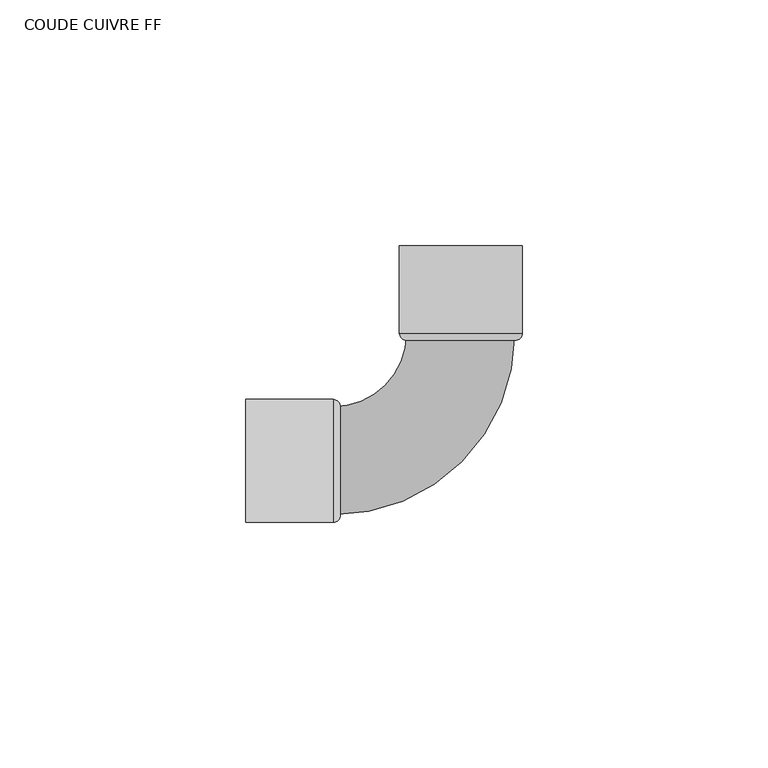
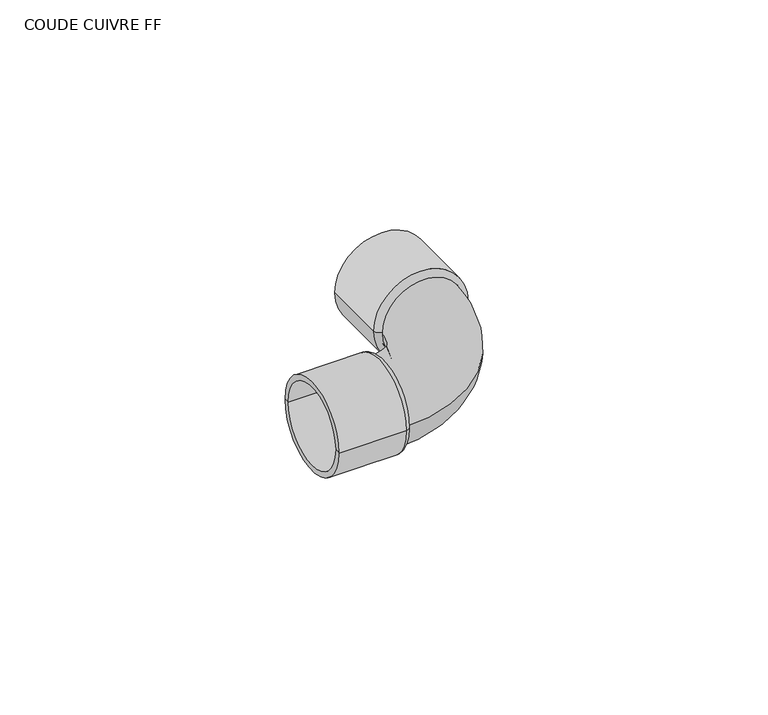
"""IFC4 building model written with IfcOpenShell, lengths in millimetres: pipe fitting geometry, COUDE CUIVRE FF : DIAMETRE EXTERNE."""

from ifc_helpers import new_model, si_unit, point, frame, origin, place, context, project, spatial, polyline, circle_curve, ellipse_curve, trimmed, source, transform, mapped, element, save
from ifc_brep_helpers import plane_surface, cylinder_surface, revolved_surface, advanced_brep


def coude_cuivre_ff_7fc61ebf(model_context):
    return source(origin(), model_context, "Body", "AdvancedBrep", [
        advanced_brep(
        [(12.5, 26.0, 0.0), (-12.5, 26.0, 0.0), (-12.5, 43.7928932, 0.0), (12.5, 43.7928932, 0.0), (11.0, 24.5, 0.0), (-11.0, 24.5, 0.0), (11.0, 43.7928932, 0.0), (-11.0, 43.7928932, 0.0)],
        [
            (0, 1, circle_curve(frame((0.0, 26.0, 0.0), z_axis=(0.0, 1.0, 0.0), x_axis=(-1.0000000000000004, 0.0, 0.0)), 12.5)),
            (1, 2),
            (2, 3, circle_curve(frame((0.0, 43.7928932, 0.0), z_axis=(0.0, -1.0, 0.0), x_axis=(-1.0000000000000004, 0.0, 0.0)), 12.5)),
            (3, 0),
            (1, 0, circle_curve(frame((0.0, 26.0, 0.0), z_axis=(0.0, 1.0, 0.0), x_axis=(-1.0000000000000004, 0.0, 0.0)), 12.5)),
            (3, 2, circle_curve(frame((0.0, 43.7928932, 0.0), z_axis=(0.0, -1.0, 0.0), x_axis=(-1.0000000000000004, 0.0, 0.0)), 12.5)),
            (4, 5, circle_curve(frame((0.0, 24.5, 0.0), z_axis=(0.0, 1.0, 0.0), x_axis=(-1.0000000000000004, 0.0, 0.0)), 11.0)),
            (5, 1, circle_curve(frame((-11.0, 26.0, 0.0), z_axis=(0.0, 0.0, -0.9999999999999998), x_axis=(0.0, 1.0000000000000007, 0.0)), 1.5)),
            (0, 4, circle_curve(frame((11.0, 26.0, 0.0), z_axis=(0.0, 0.0, -0.9999999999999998), x_axis=(0.0, 1.0000000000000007, 0.0)), 1.5)),
            (5, 4, circle_curve(frame((0.0, 24.5, 0.0), z_axis=(0.0, 1.0, 0.0), x_axis=(-1.0000000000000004, 0.0, 0.0)), 11.0)),
            (6, 7, circle_curve(frame((0.0, 43.7928932, 0.0), z_axis=(0.0, 1.0, 0.0), x_axis=(-1.0000000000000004, 0.0, 0.0)), 11.0)),
            (7, 5),
            (4, 6),
            (7, 6, circle_curve(frame((0.0, 43.7928932, 0.0), z_axis=(0.0, 1.0, 0.0), x_axis=(-1.0000000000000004, 0.0, 0.0)), 11.0)),
            (2, 7),
            (6, 3),
        ],
        [
            cylinder_surface(frame((0.0, 47.0, 0.0), z_axis=(0.0, -1.0000000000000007, 0.0), x_axis=(-1.0000000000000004, 0.0, 0.0)), 12.5),
            revolved_surface(trimmed(ellipse_curve(frame((-11.0, 26.0, 0.0), z_axis=(0.0, 0.0, 0.9999999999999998), x_axis=(0.0, 1.0000000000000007, 0.0)), 1.5, 1.5), [point((-12.5, 26.0, 0.0))], [point((-11.0, 24.5, 0.0))], True, "CARTESIAN"), (0.0, 47.0, 0.0), (0.0, -1.0000000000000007, 0.0)),
            revolved_surface(polyline([(-11.000000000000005, 24.49999999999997, 0.0), (-11.000000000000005, 43.792893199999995, 0.0)]), (0.0, 47.0, 0.0), (0.0, -1.0000000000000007, 0.0)),
            plane_surface(frame((0.0, 43.7928932, 0.0), z_axis=(0.0, 1.0, 0.0), x_axis=(-1.0, 0.0, 0.0))),
        ],
        [
            (0, [[1, 2, 3, 4]]),
            (0, [[5, -4, 6, -2]]),
            (1, [[7, 8, -1, 9]]),
            (1, [[10, -9, -5, -8]]),
            (2, [[11, 12, -7, 13]]),
            (2, [[14, -13, -10, -12]]),
            (3, [[-3, 15, -11, 16]]),
            (3, [[-6, -16, -14, -15]]),
        ],
    ),
        advanced_brep(
        [(-26.0, 12.5, 0.0), (-26.0, -12.5, 0.0), (-43.7928932, -12.5, 0.0), (-43.7928932, 12.5, 0.0), (-24.5, 11.0, 0.0), (-24.5, -11.0, 0.0), (-43.7928932, 11.0, 0.0), (-43.7928932, -11.0, 0.0)],
        [
            (0, 1, circle_curve(frame((-26.0, 0.0, 0.0), z_axis=(-1.0, 0.0, 0.0), x_axis=(0.0, -1.0000000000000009, 0.0)), 12.5)),
            (1, 2),
            (2, 3, circle_curve(frame((-43.7928932, 0.0, 0.0), z_axis=(1.0, 0.0, 0.0), x_axis=(0.0, -1.0000000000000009, 0.0)), 12.5)),
            (3, 0),
            (1, 0, circle_curve(frame((-26.0, 0.0, 0.0), z_axis=(-1.0, 0.0, 0.0), x_axis=(0.0, -1.0000000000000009, 0.0)), 12.5)),
            (3, 2, circle_curve(frame((-43.7928932, 0.0, 0.0), z_axis=(1.0, 0.0, 0.0), x_axis=(0.0, -1.0000000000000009, 0.0)), 12.5)),
            (4, 5, circle_curve(frame((-24.5, 0.0, 0.0), z_axis=(-1.0, 0.0, 0.0), x_axis=(0.0, -1.0000000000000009, 0.0)), 11.0)),
            (5, 1, circle_curve(frame((-26.0, -11.0, 0.0), z_axis=(0.0, 0.0, -1.0000000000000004), x_axis=(-1.0000000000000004, 0.0, 0.0)), 1.5)),
            (0, 4, circle_curve(frame((-26.0, 11.0, 0.0), z_axis=(0.0, 0.0, -1.0000000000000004), x_axis=(-1.0000000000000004, 0.0, 0.0)), 1.5)),
            (5, 4, circle_curve(frame((-24.5, 0.0, 0.0), z_axis=(-1.0, 0.0, 0.0), x_axis=(0.0, -1.0000000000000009, 0.0)), 11.0)),
            (6, 7, circle_curve(frame((-43.7928932, 0.0, 0.0), z_axis=(-1.0, 0.0, 0.0), x_axis=(0.0, -1.0000000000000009, 0.0)), 11.0)),
            (7, 5),
            (4, 6),
            (7, 6, circle_curve(frame((-43.7928932, 0.0, 0.0), z_axis=(-1.0, 0.0, 0.0), x_axis=(0.0, -1.0000000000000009, 0.0)), 11.0)),
            (2, 7),
            (6, 3),
        ],
        [
            cylinder_surface(frame((-47.0, 0.0, 0.0), z_axis=(1.0000000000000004, 0.0, 0.0), x_axis=(0.0, -1.0000000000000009, 0.0)), 12.5),
            revolved_surface(trimmed(ellipse_curve(frame((-26.0, -11.0, 0.0), z_axis=(0.0, 0.0, 1.0000000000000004), x_axis=(-1.0000000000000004, 0.0, 0.0)), 1.5, 1.5), [point((-26.0, -12.5, 0.0))], [point((-24.5, -11.0, 0.0))], True, "CARTESIAN"), (-47.0, 0.0, 0.0), (1.0000000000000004, 0.0, 0.0)),
            revolved_surface(polyline([(-24.49999999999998, -11.00000000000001, 0.0), (-43.7928932, -11.00000000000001, 0.0)]), (-47.0, 0.0, 0.0), (1.0000000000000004, 0.0, 0.0)),
            plane_surface(frame((-43.7928932, 0.0, 0.0), z_axis=(-1.0, 0.0, 0.0), x_axis=(0.0, -1.0, 0.0))),
        ],
        [
            (0, [[1, 2, 3, 4]]),
            (0, [[5, -4, 6, -2]]),
            (1, [[7, 8, -1, 9]]),
            (1, [[10, -9, -5, -8]]),
            (2, [[11, 12, -7, 13]]),
            (2, [[14, -13, -10, -12]]),
            (3, [[-3, 15, -11, 16]]),
            (3, [[-6, -16, -14, -15]]),
        ],
    ),
        advanced_brep(
        [(-26.0, -11.0, 0.0), (-26.0, 11.0, 0.0), (11.0, 26.0, 0.0), (-11.0, 26.0, 0.0)],
        [
            (0, 1, circle_curve(frame((-26.0, 0.0, 0.0), z_axis=(-1.0, 0.0, 0.0), x_axis=(0.0, 1.0, 0.0)), 11.0)),
            (1, 0, circle_curve(frame((-26.0, 0.0, 0.0), z_axis=(-1.0, 0.0, 0.0), x_axis=(0.0, 1.0, 0.0)), 11.0)),
            (2, 3, circle_curve(frame((0.0, 26.0, 0.0), z_axis=(0.0, 1.0, 0.0), x_axis=(-1.0, 0.0, 0.0)), 11.0)),
            (3, 2, circle_curve(frame((0.0, 26.0, 0.0), z_axis=(0.0, 1.0, 0.0), x_axis=(-1.0, 0.0, 0.0)), 11.0)),
            (3, 1, circle_curve(frame((-26.0, 26.0, 0.0), z_axis=(0.0, 0.0, -1.0), x_axis=(0.0, -1.0, 0.0)), 15.0)),
            (0, 2, circle_curve(frame((-26.0, 26.0, 0.0), z_axis=(0.0, 0.0, 1.0), x_axis=(0.0, -1.0, 0.0)), 37.0)),
        ],
        [
            plane_surface(frame((-26.0, 0.0, 0.0), z_axis=(-1.0, 0.0, 0.0), x_axis=(0.0, 0.0, 1.0))),
            plane_surface(frame((0.0, 26.0, 0.0), z_axis=(0.0, 1.0, 0.0), x_axis=(0.0, 0.0, 1.0))),
            revolved_surface(trimmed(ellipse_curve(frame((-26.0, 0.0, 0.0), z_axis=(-1.0, 0.0, 0.0), x_axis=(0.0, 1.0, 0.0)), 11.0, 11.0), [point((-26.0, -11.0, 0.0))], [point((-26.0, 11.0, 0.0))], True, "CARTESIAN"), (-26.0, 26.0, 0.0), (0.0, 0.0, 1.0)),
            revolved_surface(trimmed(ellipse_curve(frame((-26.0, 0.0, 0.0), z_axis=(-1.0, 0.0, 0.0), x_axis=(0.0, 1.0, 0.0)), 11.0, 11.0), [point((-26.0, 11.0, 0.0))], [point((-26.0, -11.0, 0.0))], True, "CARTESIAN"), (-26.0, 26.0, 0.0), (0.0, 0.0, 1.0)),
        ],
        [
            (0, [[1, 2]]),
            (1, [[3, 4]]),
            (2, [[5, -1, 6, -4]]),
            (3, [[-6, -2, -5, -3]]),
        ],
    ),
    ])


if __name__ == "__main__":
    model = new_model("IFC4")
    model_context = context("Model", 3, world=origin())
    ifc_project = project(units=[si_unit("LENGTHUNIT", "METRE", prefix="MILLI")], contexts=[model_context])
    site = spatial("IfcSite", under=ifc_project)
    building = spatial("IfcBuilding", under=site)
    placement = place(None, origin())
    coude_cuivre_ff_shape = coude_cuivre_ff_7fc61ebf(model_context)
    element("IfcPipeFitting", 1, ObjectType="COUDE CUIVRE FF : DIAMETRE EXTERNE", at=placement, inside=building, context=model_context, shape_type="MappedRepresentation", body=[
        mapped(coude_cuivre_ff_shape, transform((0.0, 0.0, 0.0), x_axis=(1.0, 0.0, 0.0), y_axis=(0.0, 1.0, 0.0), z_axis=(0.0, 0.0, 1.0))),
    ])
    save(model, "model.ifc")
